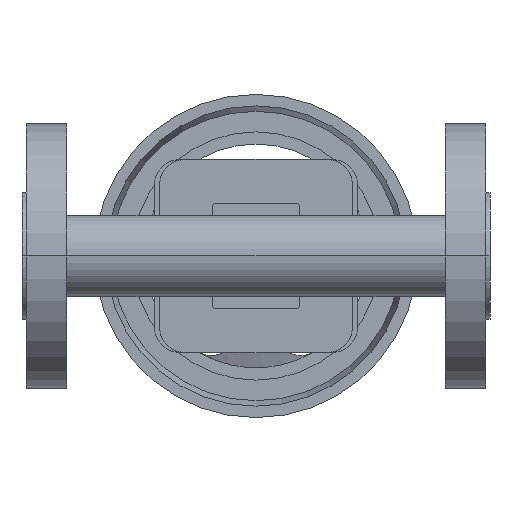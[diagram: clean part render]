
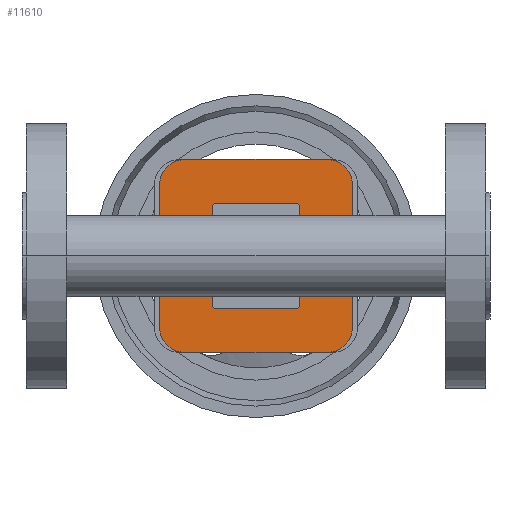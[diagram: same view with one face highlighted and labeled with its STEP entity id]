
A CAD part, front view. The second image highlights one B-rep face of the part: STEP entity #11610.
In plain terms, the highlighted planar face has unit normal (0, -1, 0).
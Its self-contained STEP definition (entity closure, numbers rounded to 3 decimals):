
#1070=CARTESIAN_POINT('',(136.533,39.,18.284));
#1080=VERTEX_POINT('',#1070);
#1110=CARTESIAN_POINT('',(129.977,39.,0.));
#1120=DIRECTION('',(0.,-1.,-0.));
#1130=DIRECTION('',(1.,0.,0.));
#1140=AXIS2_PLACEMENT_3D('',#1110,#1120,#1130);
#1150=ELLIPSE('',#1140,24.111,19.);
#1160=CARTESIAN_POINT('',(136.533,39.,-18.284));
#1170=VERTEX_POINT('',#1160);
#1180=EDGE_CURVE('',#1170,#1080,#1150,.T.);
#9020=CARTESIAN_POINT('',(149.5,39.,47.5));
#9030=VERTEX_POINT('',#9020);
#9190=CARTESIAN_POINT('',(162.5,39.,34.5));
#9200=VERTEX_POINT('',#9190);
#9230=CARTESIAN_POINT('',(149.5,39.,34.5));
#9240=DIRECTION('',(0.,1.,0.));
#9250=DIRECTION('',(0.,0.,1.));
#9260=AXIS2_PLACEMENT_3D('',#9230,#9240,#9250);
#9270=CIRCLE('',#9260,13.);
#9280=EDGE_CURVE('',#9030,#9200,#9270,.T.);
#9330=CARTESIAN_POINT('',(115.,39.,0.));
#9340=DIRECTION('',(0.,1.,0.));
#9350=DIRECTION('',(0.,0.,1.));
#9360=AXIS2_PLACEMENT_3D('',#9330,#9340,#9350);
#9370=PLANE('',#9360);
#9380=CARTESIAN_POINT('',(91.5,39.,-18.648));
#9390=DIRECTION('',(0.,-1.,-0.));
#9400=DIRECTION('',(1.,0.,0.));
#9410=AXIS2_PLACEMENT_3D('',#9380,#9390,#9400);
#9420=CIRCLE('',#9410,2.);
#9430=CARTESIAN_POINT('',(93.5,39.,-18.648));
#9440=VERTEX_POINT('',#9430);
#9450=CARTESIAN_POINT('',(93.067,39.,-17.405));
#9460=VERTEX_POINT('',#9450);
#9470=EDGE_CURVE('',#9440,#9460,#9420,.T.);
#9480=ORIENTED_EDGE('',*,*,#9470,.T.);
#9490=CARTESIAN_POINT('',(93.5,39.,9.5));
#9500=DIRECTION('',(0.,-0.,1.));
#9510=VECTOR('',#9500,1.);
#9520=LINE('',#9490,#9510);
#9530=CARTESIAN_POINT('',(93.5,39.,-24.));
#9540=VERTEX_POINT('',#9530);
#9550=EDGE_CURVE('',#9540,#9440,#9520,.T.);
#9560=ORIENTED_EDGE('',*,*,#9550,.T.);
#9570=CARTESIAN_POINT('',(95.5,39.,-24.));
#9580=DIRECTION('',(0.,1.,0.));
#9590=DIRECTION('',(0.,0.,-1.));
#9600=AXIS2_PLACEMENT_3D('',#9570,#9580,#9590);
#9610=CIRCLE('',#9600,2.);
#9620=CARTESIAN_POINT('',(95.5,39.,-26.));
#9630=VERTEX_POINT('',#9620);
#9640=EDGE_CURVE('',#9630,#9540,#9610,.T.);
#9650=ORIENTED_EDGE('',*,*,#9640,.T.);
#9660=CARTESIAN_POINT('',(105.25,39.,-26.));
#9670=DIRECTION('',(-1.,0.,0.));
#9680=VECTOR('',#9670,1.);
#9690=LINE('',#9660,#9680);
#9700=CARTESIAN_POINT('',(134.5,39.,-26.));
#9710=VERTEX_POINT('',#9700);
#9720=EDGE_CURVE('',#9710,#9630,#9690,.T.);
#9730=ORIENTED_EDGE('',*,*,#9720,.T.);
#9740=CARTESIAN_POINT('',(134.5,39.,-24.));
#9750=DIRECTION('',(-0.,1.,0.));
#9760=DIRECTION('',(1.,0.,0.));
#9770=AXIS2_PLACEMENT_3D('',#9740,#9750,#9760);
#9780=CIRCLE('',#9770,2.);
#9790=CARTESIAN_POINT('',(136.5,39.,-24.));
#9800=VERTEX_POINT('',#9790);
#9810=EDGE_CURVE('',#9800,#9710,#9780,.T.);
#9820=ORIENTED_EDGE('',*,*,#9810,.T.);
#9830=CARTESIAN_POINT('',(136.5,39.,-12.));
#9840=DIRECTION('',(0.,0.,-1.));
#9850=VECTOR('',#9840,1.);
#9860=LINE('',#9830,#9850);
#9870=CARTESIAN_POINT('',(136.5,39.,-18.648));
#9880=VERTEX_POINT('',#9870);
#9890=EDGE_CURVE('',#9880,#9800,#9860,.T.);
#9900=ORIENTED_EDGE('',*,*,#9890,.T.);
#9910=CARTESIAN_POINT('',(138.5,39.,-18.648));
#9920=DIRECTION('',(-0.,-1.,0.));
#9930=DIRECTION('',(-0.783,0.,0.622));
#9940=AXIS2_PLACEMENT_3D('',#9910,#9920,#9930);
#9950=CIRCLE('',#9940,2.);
#9960=EDGE_CURVE('',#1170,#9880,#9950,.T.);
#9970=ORIENTED_EDGE('',*,*,#9960,.T.);
#9980=ORIENTED_EDGE('',*,*,#1180,.F.);
#9990=CARTESIAN_POINT('',(138.5,39.,18.648));
#10000=DIRECTION('',(0.,-1.,-0.));
#10010=DIRECTION('',(-1.,0.,0.));
#10020=AXIS2_PLACEMENT_3D('',#9990,#10000,#10010);
#10030=CIRCLE('',#10020,2.);
#10040=CARTESIAN_POINT('',(136.5,39.,18.648));
#10050=VERTEX_POINT('',#10040);
#10060=EDGE_CURVE('',#10050,#1080,#10030,.T.);
#10070=ORIENTED_EDGE('',*,*,#10060,.T.);
#10080=CARTESIAN_POINT('',(136.5,39.,9.324));
#10090=DIRECTION('',(0.,0.,-1.));
#10100=VECTOR('',#10090,1.);
#10110=LINE('',#10080,#10100);
#10120=CARTESIAN_POINT('',(136.5,39.,24.));
#10130=VERTEX_POINT('',#10120);
#10140=EDGE_CURVE('',#10130,#10050,#10110,.T.);
#10150=ORIENTED_EDGE('',*,*,#10140,.T.);
#10160=CARTESIAN_POINT('',(134.5,39.,24.));
#10170=DIRECTION('',(0.,1.,0.));
#10180=DIRECTION('',(0.,0.,1.));
#10190=AXIS2_PLACEMENT_3D('',#10160,#10170,#10180);
#10200=CIRCLE('',#10190,2.);
#10210=CARTESIAN_POINT('',(134.5,39.,26.));
#10220=VERTEX_POINT('',#10210);
#10230=EDGE_CURVE('',#10220,#10130,#10200,.T.);
#10240=ORIENTED_EDGE('',*,*,#10230,.T.);
#10250=CARTESIAN_POINT('',(124.75,39.,26.));
#10260=DIRECTION('',(1.,0.,0.));
#10270=VECTOR('',#10260,1.);
#10280=LINE('',#10250,#10270);
#10290=CARTESIAN_POINT('',(95.5,39.,26.));
#10300=VERTEX_POINT('',#10290);
#10310=EDGE_CURVE('',#10300,#10220,#10280,.T.);
#10320=ORIENTED_EDGE('',*,*,#10310,.T.);
#10330=CARTESIAN_POINT('',(95.5,39.,24.));
#10340=DIRECTION('',(0.,1.,0.));
#10350=DIRECTION('',(-1.,0.,0.));
#10360=AXIS2_PLACEMENT_3D('',#10330,#10340,#10350);
#10370=CIRCLE('',#10360,2.);
#10380=CARTESIAN_POINT('',(93.5,39.,24.));
#10390=VERTEX_POINT('',#10380);
#10400=EDGE_CURVE('',#10390,#10300,#10370,.T.);
#10410=ORIENTED_EDGE('',*,*,#10400,.T.);
#10420=CARTESIAN_POINT('',(93.5,39.,9.5));
#10430=DIRECTION('',(0.,-0.,1.));
#10440=VECTOR('',#10430,1.);
#10450=LINE('',#10420,#10440);
#10460=CARTESIAN_POINT('',(93.5,39.,18.648));
#10470=VERTEX_POINT('',#10460);
#10480=EDGE_CURVE('',#10470,#10390,#10450,.T.);
#10490=ORIENTED_EDGE('',*,*,#10480,.T.);
#10500=CARTESIAN_POINT('',(91.5,39.,18.648));
#10510=DIRECTION('',(0.,-1.,-0.));
#10520=DIRECTION('',(0.783,0.,-0.622));
#10530=AXIS2_PLACEMENT_3D('',#10500,#10510,#10520);
#10540=CIRCLE('',#10530,2.);
#10550=CARTESIAN_POINT('',(93.067,39.,17.405));
#10560=VERTEX_POINT('',#10550);
#10570=EDGE_CURVE('',#10560,#10470,#10540,.T.);
#10580=ORIENTED_EDGE('',*,*,#10570,.T.);
#10590=CARTESIAN_POINT('',(115.,39.,0.));
#10600=DIRECTION('',(0.,1.,0.));
#10610=DIRECTION('',(-0.783,0.,-0.622));
#10620=AXIS2_PLACEMENT_3D('',#10590,#10600,#10610);
#10630=CIRCLE('',#10620,28.);
#10640=CARTESIAN_POINT('',(87.65,39.,6.));
#10650=VERTEX_POINT('',#10640);
#10660=EDGE_CURVE('',#10650,#10560,#10630,.T.);
#10670=ORIENTED_EDGE('',*,*,#10660,.T.);
#10680=CARTESIAN_POINT('',(115.,39.,6.));
#10690=DIRECTION('',(1.,0.,0.));
#10700=VECTOR('',#10690,1.);
#10710=LINE('',#10680,#10700);
#10720=CARTESIAN_POINT('',(72.,39.,6.));
#10730=VERTEX_POINT('',#10720);
#10740=EDGE_CURVE('',#10730,#10650,#10710,.T.);
#10750=ORIENTED_EDGE('',*,*,#10740,.T.);
#10760=CARTESIAN_POINT('',(72.,39.,3.));
#10770=DIRECTION('',(0.,0.,1.));
#10780=VECTOR('',#10770,1.);
#10790=LINE('',#10760,#10780);
#10800=CARTESIAN_POINT('',(72.,39.,-6.));
#10810=VERTEX_POINT('',#10800);
#10820=EDGE_CURVE('',#10810,#10730,#10790,.T.);
#10830=ORIENTED_EDGE('',*,*,#10820,.T.);
#10840=CARTESIAN_POINT('',(115.,39.,-6.));
#10850=DIRECTION('',(-1.,0.,0.));
#10860=VECTOR('',#10850,1.);
#10870=LINE('',#10840,#10860);
#10880=CARTESIAN_POINT('',(87.65,39.,-6.));
#10890=VERTEX_POINT('',#10880);
#10900=EDGE_CURVE('',#10890,#10810,#10870,.T.);
#10910=ORIENTED_EDGE('',*,*,#10900,.T.);
#10920=CARTESIAN_POINT('',(115.,39.,0.));
#10930=DIRECTION('',(0.,1.,0.));
#10940=DIRECTION('',(-0.783,0.,-0.622));
#10950=AXIS2_PLACEMENT_3D('',#10920,#10930,#10940);
#10960=CIRCLE('',#10950,28.);
#10970=EDGE_CURVE('',#9460,#10890,#10960,.T.);
#10980=ORIENTED_EDGE('',*,*,#10970,.T.);
#10990=EDGE_LOOP('',(#10980,#10910,#10830,#10750,#10670,#10580,#10490,
#10410,#10320,#10240,#10150,#10070,#9980,#9970,#9900,#9820,#9730,#9650,
#9560,#9480));
#11000=FACE_BOUND('',#10990,.T.);
#11010=CARTESIAN_POINT('',(80.5,39.,47.5));
#11020=DIRECTION('',(1.,0.,0.));
#11030=VECTOR('',#11020,1.);
#11040=LINE('',#11010,#11030);
#11050=CARTESIAN_POINT('',(80.5,39.,47.5));
#11060=VERTEX_POINT('',#11050);
#11070=EDGE_CURVE('',#11060,#9030,#11040,.T.);
#11080=ORIENTED_EDGE('',*,*,#11070,.F.);
#11090=ORIENTED_EDGE('',*,*,#9280,.F.);
#11100=CARTESIAN_POINT('',(162.5,39.,34.5));
#11110=DIRECTION('',(0.,0.,-1.));
#11120=VECTOR('',#11110,1.);
#11130=LINE('',#11100,#11120);
#11140=CARTESIAN_POINT('',(162.5,39.,-34.5));
#11150=VERTEX_POINT('',#11140);
#11160=EDGE_CURVE('',#9200,#11150,#11130,.T.);
#11170=ORIENTED_EDGE('',*,*,#11160,.F.);
#11180=CARTESIAN_POINT('',(149.5,39.,-34.5));
#11190=DIRECTION('',(-0.,1.,0.));
#11200=DIRECTION('',(1.,0.,0.));
#11210=AXIS2_PLACEMENT_3D('',#11180,#11190,#11200);
#11220=CIRCLE('',#11210,13.);
#11230=CARTESIAN_POINT('',(149.5,39.,-47.5));
#11240=VERTEX_POINT('',#11230);
#11250=EDGE_CURVE('',#11150,#11240,#11220,.T.);
#11260=ORIENTED_EDGE('',*,*,#11250,.F.);
#11270=CARTESIAN_POINT('',(149.5,39.,-47.5));
#11280=DIRECTION('',(-1.,0.,0.));
#11290=VECTOR('',#11280,1.);
#11300=LINE('',#11270,#11290);
#11310=CARTESIAN_POINT('',(80.5,39.,-47.5));
#11320=VERTEX_POINT('',#11310);
#11330=EDGE_CURVE('',#11240,#11320,#11300,.T.);
#11340=ORIENTED_EDGE('',*,*,#11330,.F.);
#11350=CARTESIAN_POINT('',(80.5,39.,-34.5));
#11360=DIRECTION('',(0.,1.,0.));
#11370=DIRECTION('',(0.,0.,-1.));
#11380=AXIS2_PLACEMENT_3D('',#11350,#11360,#11370);
#11390=CIRCLE('',#11380,13.);
#11400=CARTESIAN_POINT('',(67.5,39.,-34.5));
#11410=VERTEX_POINT('',#11400);
#11420=EDGE_CURVE('',#11320,#11410,#11390,.T.);
#11430=ORIENTED_EDGE('',*,*,#11420,.F.);
#11440=CARTESIAN_POINT('',(67.5,39.,-34.5));
#11450=DIRECTION('',(0.,0.,1.));
#11460=VECTOR('',#11450,1.);
#11470=LINE('',#11440,#11460);
#11480=CARTESIAN_POINT('',(67.5,39.,34.5));
#11490=VERTEX_POINT('',#11480);
#11500=EDGE_CURVE('',#11410,#11490,#11470,.T.);
#11510=ORIENTED_EDGE('',*,*,#11500,.F.);
#11520=CARTESIAN_POINT('',(80.5,39.,34.5));
#11530=DIRECTION('',(0.,1.,0.));
#11540=DIRECTION('',(-1.,0.,0.));
#11550=AXIS2_PLACEMENT_3D('',#11520,#11530,#11540);
#11560=CIRCLE('',#11550,13.);
#11570=EDGE_CURVE('',#11490,#11060,#11560,.T.);
#11580=ORIENTED_EDGE('',*,*,#11570,.F.);
#11590=EDGE_LOOP('',(#11580,#11510,#11430,#11340,#11260,#11170,#11090,
#11080));
#11600=FACE_OUTER_BOUND('',#11590,.T.);
#11610=ADVANCED_FACE('',(#11000,#11600),#9370,.F.);
